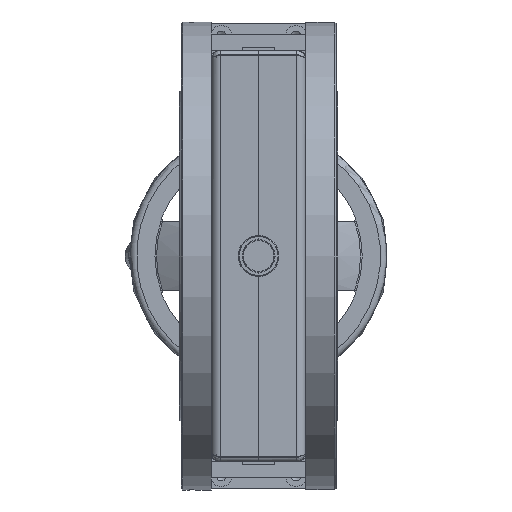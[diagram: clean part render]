
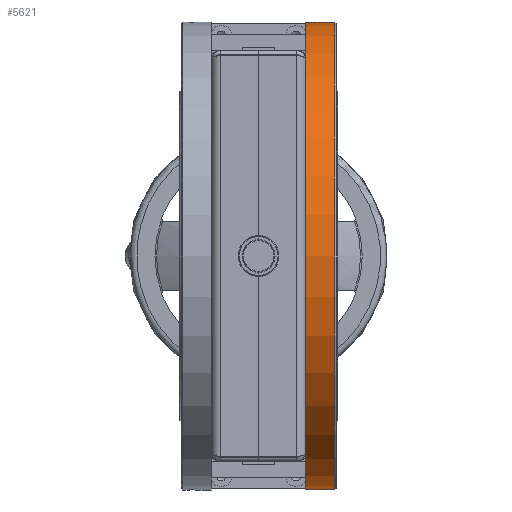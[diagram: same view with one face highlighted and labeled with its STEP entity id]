
A CAD part, left-side view. The second image highlights one B-rep face of the part: STEP entity #5621.
In plain terms, the highlighted cylindrical face has radius 144.1 mm (diameter 288.2 mm), a full revolution.
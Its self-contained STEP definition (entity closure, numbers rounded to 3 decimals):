
#5402=CYLINDRICAL_SURFACE('',#12069,144.1);
#5621=ADVANCED_FACE('',(#6205,#6206),#5402,.T.);
#6205=FACE_BOUND('',#6905,.T.);
#6206=FACE_BOUND('',#6906,.T.);
#6905=EDGE_LOOP('',(#7834));
#6906=EDGE_LOOP('',(#7835));
#7834=ORIENTED_EDGE('',*,*,#10634,.T.);
#7835=ORIENTED_EDGE('',*,*,#10633,.F.);
#9791=VERTEX_POINT('',#15639);
#9792=VERTEX_POINT('',#15642);
#10633=EDGE_CURVE('',#9791,#9791,#11609,.T.);
#10634=EDGE_CURVE('',#9792,#9792,#11610,.T.);
#11609=CIRCLE('',#12066,144.1);
#11610=CIRCLE('',#12068,144.1);
#12066=AXIS2_PLACEMENT_3D('',#15638,#13173,#13174);
#12068=AXIS2_PLACEMENT_3D('',#15641,#13177,#13178);
#12069=AXIS2_PLACEMENT_3D('',#15643,#13179,#13180);
#13173=DIRECTION('',(0.,-1.,0.));
#13174=DIRECTION('',(0.,0.,-1.));
#13177=DIRECTION('',(0.,-1.,0.));
#13178=DIRECTION('',(0.,0.,-1.));
#13179=DIRECTION('',(0.,-1.,0.));
#13180=DIRECTION('',(0.,0.,-1.));
#15638=CARTESIAN_POINT('',(0.,-19.75,0.));
#15639=CARTESIAN_POINT('',(0.,-19.75,-144.1));
#15641=CARTESIAN_POINT('',(0.,-2.,0.));
#15642=CARTESIAN_POINT('',(0.,-2.,-144.1));
#15643=CARTESIAN_POINT('',(0.,0.,0.));
